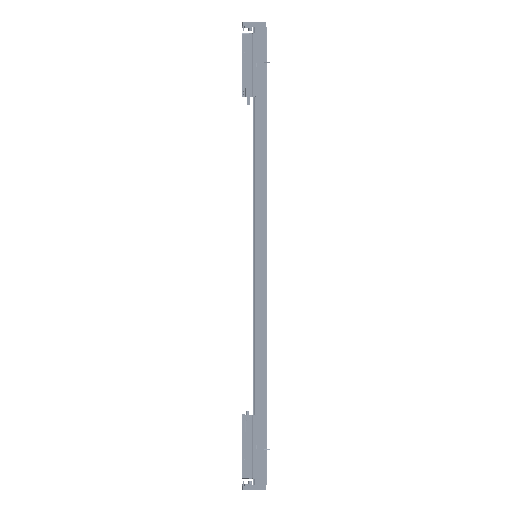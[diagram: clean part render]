
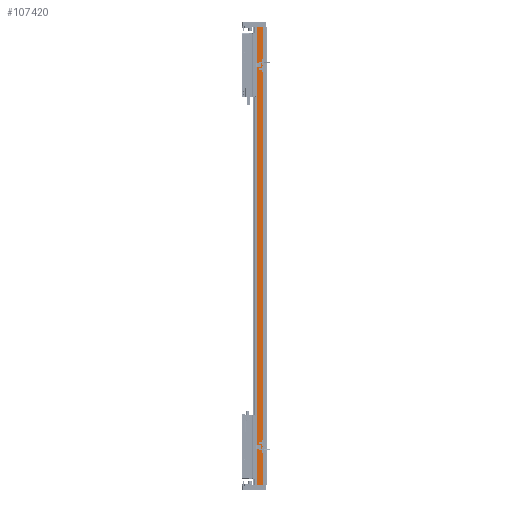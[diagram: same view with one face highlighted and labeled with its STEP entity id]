
A CAD part, left-side view. The second image highlights one B-rep face of the part: STEP entity #107420.
In plain terms, the highlighted planar face has unit normal (-1, 0, 0).
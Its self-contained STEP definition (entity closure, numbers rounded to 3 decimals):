
#4183 = DIRECTION ( 'NONE',  ( 1., 0., 0. ) ) ;
#6107 = LINE ( 'NONE', #35342, #38794 ) ;
#8149 = LINE ( 'NONE', #18516, #63534 ) ;
#12515 = EDGE_LOOP ( 'NONE', ( #70307, #100832, #23189, #24840 ) ) ;
#16486 = EDGE_CURVE ( 'NONE', #119075, #91101, #8149, .T. ) ;
#17434 = CARTESIAN_POINT ( 'NONE',  ( -82.5, 36.95, 900. ) ) ;
#18516 = CARTESIAN_POINT ( 'NONE',  ( -82.5, 36.95, 900. ) ) ;
#23189 = ORIENTED_EDGE ( 'NONE', *, *, #77448, .F. ) ;
#24840 = ORIENTED_EDGE ( 'NONE', *, *, #16486, .T. ) ;
#31438 = EDGE_CURVE ( 'NONE', #91101, #85472, #51348, .T. ) ;
#35342 = CARTESIAN_POINT ( 'NONE',  ( -82.5, 14.45, 900. ) ) ;
#38794 = VECTOR ( 'NONE', #75545, 1000. ) ;
#43118 = CARTESIAN_POINT ( 'NONE',  ( -82.5, 14.45, 900. ) ) ;
#51348 = LINE ( 'NONE', #120794, #64483 ) ;
#52012 = DIRECTION ( 'NONE',  ( 0., -1., 0. ) ) ;
#57026 = DIRECTION ( 'NONE',  ( 0., -1., 0. ) ) ;
#63534 = VECTOR ( 'NONE', #95159, 1000. ) ;
#64483 = VECTOR ( 'NONE', #52012, 1000. ) ;
#70307 = ORIENTED_EDGE ( 'NONE', *, *, #31438, .T. ) ;
#73614 = PLANE ( 'NONE',  #96011 ) ;
#75545 = DIRECTION ( 'NONE',  ( 0., 0., -1. ) ) ;
#77448 = EDGE_CURVE ( 'NONE', #119075, #99314, #106367, .T. ) ;
#83366 = DIRECTION ( 'NONE',  ( 0., 1., 0. ) ) ;
#85472 = VERTEX_POINT ( 'NONE', #89911 ) ;
#88984 = EDGE_CURVE ( 'NONE', #99314, #85472, #6107, .T. ) ;
#89911 = CARTESIAN_POINT ( 'NONE',  ( -82.5, 14.45, -900. ) ) ;
#90535 = CARTESIAN_POINT ( 'NONE',  ( -82.5, 36.95, 900. ) ) ;
#91101 = VERTEX_POINT ( 'NONE', #127565 ) ;
#93109 = CARTESIAN_POINT ( 'NONE',  ( -82.5, 36.95, 900. ) ) ;
#95159 = DIRECTION ( 'NONE',  ( 0., 0., -1. ) ) ;
#96011 = AXIS2_PLACEMENT_3D ( 'NONE', #93109, #4183, #83366 ) ;
#98412 = VECTOR ( 'NONE', #57026, 1000. ) ;
#99314 = VERTEX_POINT ( 'NONE', #43118 ) ;
#100832 = ORIENTED_EDGE ( 'NONE', *, *, #88984, .F. ) ;
#105380 = FACE_OUTER_BOUND ( 'NONE', #12515, .T. ) ;
#106367 = LINE ( 'NONE', #17434, #98412 ) ;
#107420 = ADVANCED_FACE ( 'NONE', ( #105380 ), #73614, .F. ) ;
#119075 = VERTEX_POINT ( 'NONE', #90535 ) ;
#120794 = CARTESIAN_POINT ( 'NONE',  ( -82.5, 36.95, -900. ) ) ;
#127565 = CARTESIAN_POINT ( 'NONE',  ( -82.5, 36.95, -900. ) ) ;
